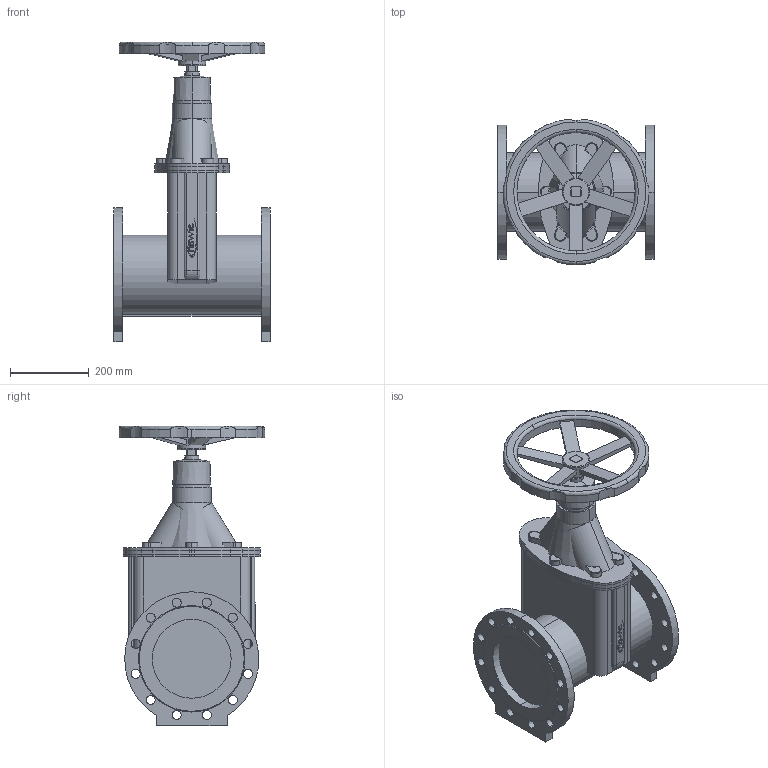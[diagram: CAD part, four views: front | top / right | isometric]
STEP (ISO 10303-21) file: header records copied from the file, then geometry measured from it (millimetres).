
FILE_DESCRIPTION(('STEP AP214'),'1');
FILE_NAME('S:/EK/USER/CAT6/3DHomepage/4700E2/4700E2-PN16-DN200-HANDRAD.STP','2012-04-23T12:29:18',(' '),(' '),'Spatial InterOp 3D',' ',' ');
FILE_SCHEMA(('automotive_design'));
Length unit declared in the file: millimetre
Products named in the file (53): 3D-Objekt
Bounding box: 400 x 368.75 x 760 mm (x, y, z)
Volume: 29321350.3 mm3; surface area: 2014445.4 mm2
Topology: 53 solids, 53 shells, 569 faces, 1369 edges, 914 vertices
Faces by surface type: plane 283, cylinder 260, torus 12, cone 10, bspline 4
Entity records: 23028 total; most frequent: CARTESIAN_POINT 3283, DIRECTION 3185, ORIENTED_EDGE 2738, EDGE_CURVE 1369, AXIS2_PLACEMENT_3D 1208, VERTEX_POINT 914, LINE 769, VECTOR 769
